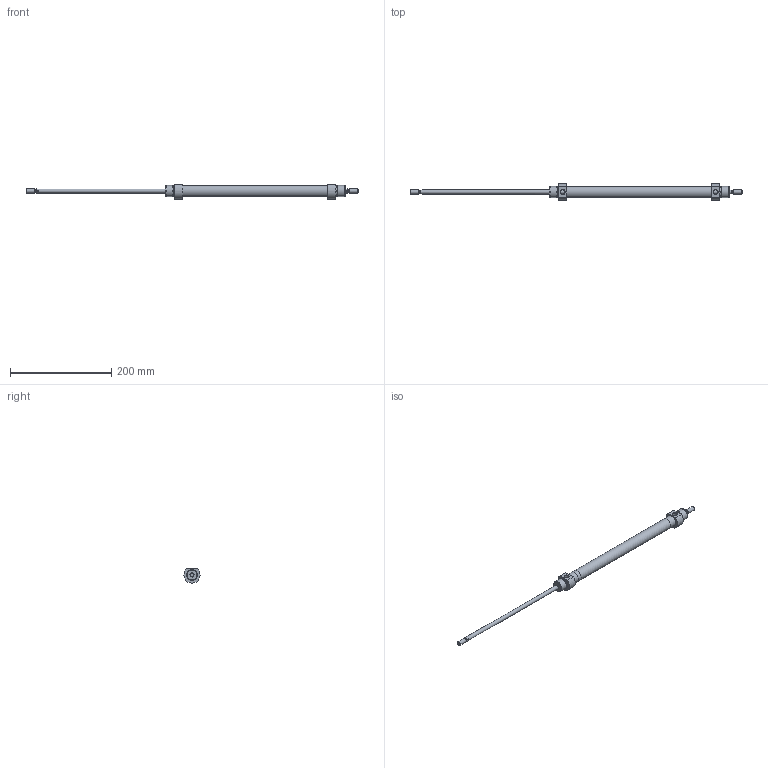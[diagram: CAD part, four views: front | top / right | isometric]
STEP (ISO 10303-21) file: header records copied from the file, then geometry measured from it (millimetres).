
FILE_DESCRIPTION( ( 'STEP AP203' ), '1' );
FILE_NAME( '//expscmdclustefs.cadenas.external/client_exchange/iodir/jobs/output/wkb68462831_no0/STEP/M101-020-0250--__0__2_03.stp', ' ', ( ' ' ), ( ' ' ), 'PSStep 15.0.47', 'PARTsolutions', ' ' );
FILE_SCHEMA( ( 'CONFIG_CONTROL_DESIGN' ) );
Length unit declared in the file: millimetre
Products named in the file (3): M101-020-0250-- [0]; HI_M101-020-0250---[0]-z; HI_M101-020-0250---[0]-k
Assembly tree (2 placements, depth 2):
  M101-020-0250-- [0]
    HI_M101-020-0250---[0]-z
    HI_M101-020-0250---[0]-k
Bounding box: 656 x 32 x 28 mm (x, y, z)
Volume: 90661.6 mm3; surface area: 64233.4 mm2
Topology: 2 solids, 2 shells, 65 faces, 129 edges, 80 vertices
Faces by surface type: plane 26, cylinder 23, cone 14, torus 2
Full cylindrical faces by diameter (mm): 6.466 x2, 8 x6, 8.566 x2, 20 x2, 20.16 x4, 21.6 x1, 22 x4
Entity records: 1702 total; most frequent: CARTESIAN_POINT 356, DIRECTION 280, ORIENTED_EDGE 184, AXIS2_PLACEMENT_3D 128, EDGE_LOOP 116, EDGE_CURVE 92, FACE_OUTER_BOUND 88, VERTEX_POINT 76
